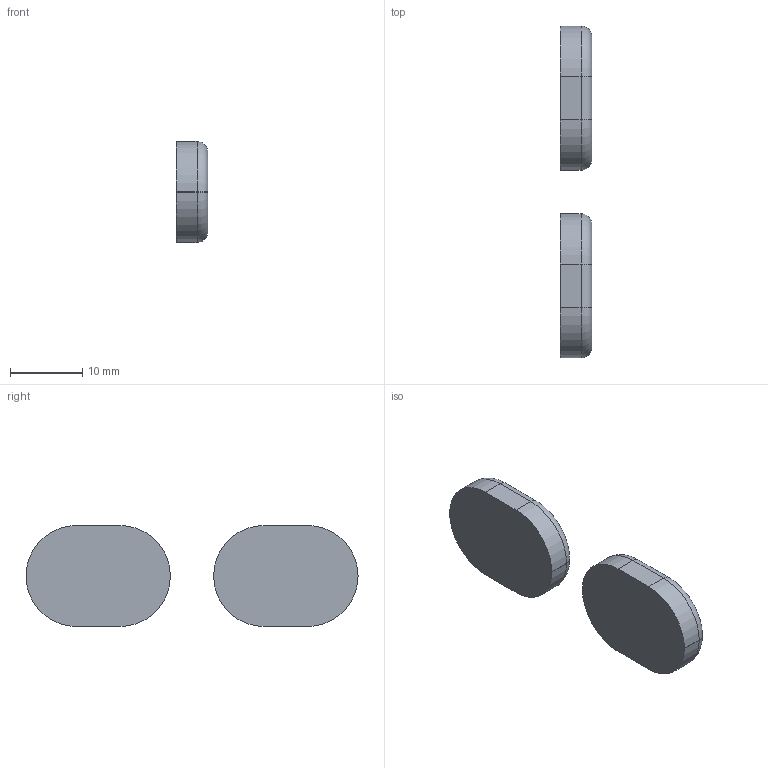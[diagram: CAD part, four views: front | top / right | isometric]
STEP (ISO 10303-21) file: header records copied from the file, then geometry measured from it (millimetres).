
FILE_DESCRIPTION(('Open CASCADE Model'),'2;1');
FILE_NAME('Open CASCADE Shape Model','2026-09-08T13:27:13',('Author'),( 'Open CASCADE'),'Open CASCADE STEP processor 7.7','Open CASCADE 7.7' ,'Unknown');
FILE_SCHEMA(('AUTOMOTIVE_DESIGN { 1 0 10303 214 1 1 1 1 }'));
Length unit declared in the file: millimetre
Products named in the file (3): Open CASCADE STEP translator 7.7 3; Open CASCADE STEP translator 7.7 3.1; Open CASCADE STEP translator 7.7 3.2
Assembly tree (2 placements, depth 2):
  Open CASCADE STEP translator 7.7 3
    Open CASCADE STEP translator 7.7 3.1
    Open CASCADE STEP translator 7.7 3.2
Bounding box: 4.4 x 46 x 14 mm (x, y, z)
Volume: 2038.5 mm3; surface area: 1382.8 mm2
Topology: 2 solids, 2 shells, 66 faces, 164 edges, 104 vertices
Faces by surface type: plane 30, cylinder 28, torus 8
Entity records: 4236 total; most frequent: CARTESIAN_POINT 857, DIRECTION 662, LINE 388, VECTOR 388, ORIENTED_EDGE 328, PCURVE 328, DEFINITIONAL_REPRESENTATION 328, EDGE_CURVE 164
